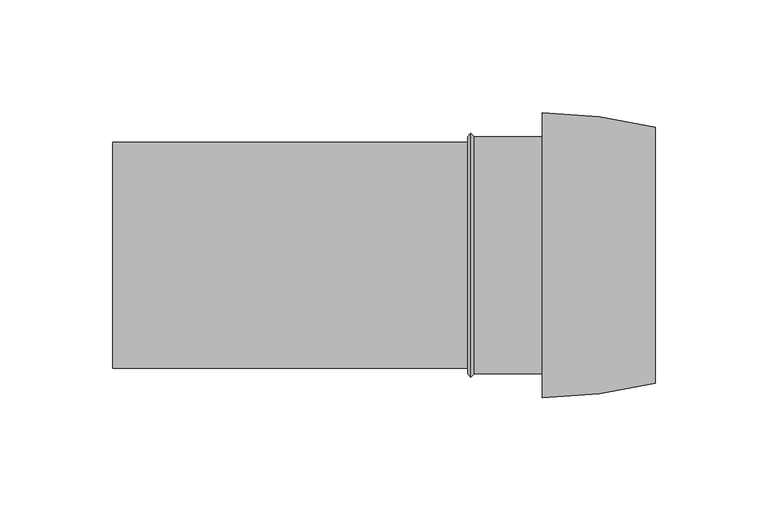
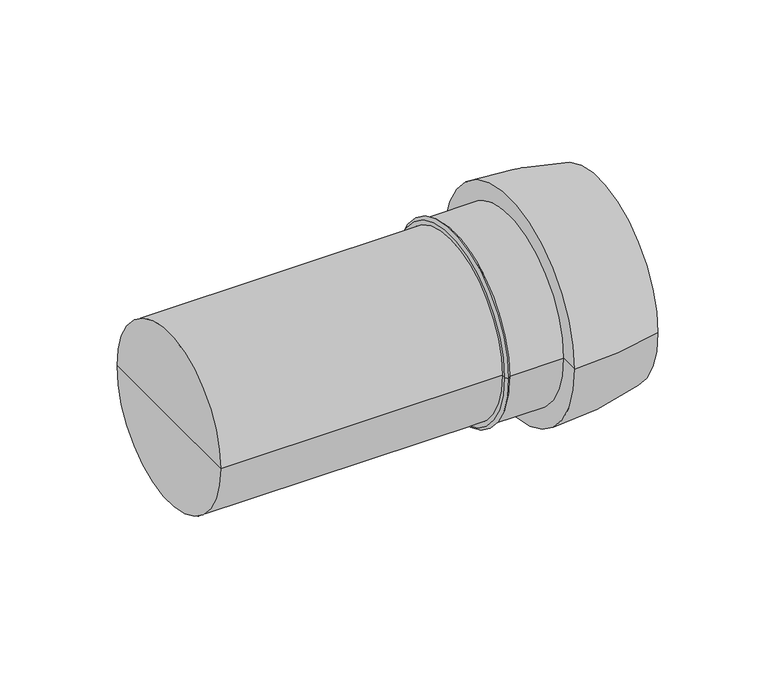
"""IFC4 building model written with IfcOpenShell, lengths in millimetres: duct segment geometry, NLRS_57_AIR_DUF_Easysafe verl pijp PP_M&G : Easysafe verlengpijp."""

from ifc_helpers import new_model, si_unit, point, frame, origin, place, context, project, spatial, polyline, circle_curve, ellipse_curve, trimmed, source, transform, mapped, element, save
from ifc_brep_helpers import plane_surface, cylinder_surface, revolved_surface, advanced_brep


def duct_segment_923477a0(model_context):
    return source(origin(), model_context, "Body", "AdvancedBrep", [
        advanced_brep(
        [(0.0, 0.0, 0.0), (0.0, 50.0, 0.0), (0.0, -50.0, 0.0), (190.0, -63.0, 0.0), (190.0, 63.0, 0.0), (240.0, 56.6491673, 0.0), (240.0, -56.6491673, 0.0), (190.0, -52.5, 0.0), (190.0, 52.5, 0.0), (160.0, -52.5, 0.0), (160.0, 52.5, 0.0), (157.0, 50.0, 0.0), (157.0, -50.0, 0.0), (240.0, 50.0, 0.0), (240.0, -50.0, 0.0), (158.5, -54.0, 0.0), (158.5, 54.0, 0.0), (157.0, -52.5, 0.0), (157.0, 52.5, 0.0), (190.0, -50.0, 0.0), (190.0, 50.0, 0.0), (190.0, 0.0, 0.0)],
        [
            (0, 1),
            (1, 2, circle_curve(frame((0.0, 0.0, 0.0), z_axis=(-1.0, 0.0, 0.0), x_axis=(0.0, 1.0, 0.0)), 50.0)),
            (2, 0),
            (2, 1, circle_curve(frame((0.0, 0.0, 0.0), z_axis=(-1.0, 0.0, 0.0), x_axis=(0.0, 1.0, 0.0)), 50.0)),
            (3, 4, circle_curve(frame((190.0, 0.0, 0.0), z_axis=(1.0, 0.0, 0.0), x_axis=(0.0, 1.0, 0.0)), 63.0)),
            (4, 5, circle_curve(frame((190.0, -137.0, 0.0), z_axis=(0.0, 0.0, -1.0), x_axis=(1.0, 0.0, 0.0)), 200.0)),
            (5, 6, circle_curve(frame((240.0, 0.0, 0.0), z_axis=(-1.0, 0.0, 0.0), x_axis=(0.0, 1.0, 0.0)), 56.6491673)),
            (6, 3, circle_curve(frame((190.0, 137.0, 0.0), z_axis=(0.0, 0.0, -1.0), x_axis=(1.0, 0.0, 0.0)), 200.0)),
            (4, 3, circle_curve(frame((190.0, 0.0, 0.0), z_axis=(1.0, 0.0, 0.0), x_axis=(0.0, 1.0, 0.0)), 63.0)),
            (6, 5, circle_curve(frame((240.0, 0.0, 0.0), z_axis=(-1.0, 0.0, 0.0), x_axis=(0.0, 1.0, 0.0)), 56.6491673)),
            (7, 8, circle_curve(frame((190.0, 0.0, 0.0), z_axis=(1.0, 0.0, 0.0), x_axis=(0.0, 1.0, 0.0)), 52.5)),
            (8, 4),
            (3, 7),
            (8, 7, circle_curve(frame((190.0, 0.0, 0.0), z_axis=(1.0, 0.0, 0.0), x_axis=(0.0, 1.0, 0.0)), 52.5)),
            (9, 10, circle_curve(frame((160.0, 0.0, 0.0), z_axis=(1.0, 0.0, 0.0), x_axis=(0.0, 1.0, 0.0)), 52.5)),
            (10, 8),
            (7, 9),
            (10, 9, circle_curve(frame((160.0, 0.0, 0.0), z_axis=(1.0, 0.0, 0.0), x_axis=(0.0, 1.0, 0.0)), 52.5)),
            (1, 11),
            (11, 12, circle_curve(frame((157.0, 0.0, 0.0), z_axis=(-1.0, 0.0, 0.0), x_axis=(0.0, 1.0, 0.0)), 50.0)),
            (12, 2),
            (12, 11, circle_curve(frame((157.0, 0.0, 0.0), z_axis=(-1.0, 0.0, 0.0), x_axis=(0.0, 1.0, 0.0)), 50.0)),
            (5, 13),
            (13, 14, circle_curve(frame((240.0, 0.0, 0.0), z_axis=(-1.0, 0.0, 0.0), x_axis=(0.0, 1.0, 0.0)), 50.0)),
            (14, 6),
            (14, 13, circle_curve(frame((240.0, 0.0, 0.0), z_axis=(-1.0, 0.0, 0.0), x_axis=(0.0, 1.0, 0.0)), 50.0)),
            (15, 16, circle_curve(frame((158.5, 0.0, 0.0), z_axis=(1.0, 0.0, 0.0), x_axis=(0.0, 1.0, 0.0)), 54.0)),
            (16, 10),
            (9, 15),
            (16, 15, circle_curve(frame((158.5, 0.0, 0.0), z_axis=(1.0, 0.0, 0.0), x_axis=(0.0, 1.0, 0.0)), 54.0)),
            (17, 18, circle_curve(frame((157.0, 0.0, 0.0), z_axis=(1.0, 0.0, 0.0), x_axis=(0.0, 1.0, 0.0)), 52.5)),
            (18, 16),
            (15, 17),
            (18, 17, circle_curve(frame((157.0, 0.0, 0.0), z_axis=(1.0, 0.0, 0.0), x_axis=(0.0, 1.0, 0.0)), 52.5)),
            (11, 18),
            (17, 12),
            (19, 20, circle_curve(frame((190.0, 0.0, 0.0), z_axis=(1.0, 0.0, 0.0), x_axis=(0.0, 1.0, 0.0)), 50.0)),
            (20, 21),
            (21, 19),
            (20, 19, circle_curve(frame((190.0, 0.0, 0.0), z_axis=(1.0, 0.0, 0.0), x_axis=(0.0, 1.0, 0.0)), 50.0)),
            (13, 20),
            (19, 14),
        ],
        [
            plane_surface(frame((0.0, 0.0, 0.0), z_axis=(-1.0, 0.0, 0.0), x_axis=(0.0, 1.0, 0.0))),
            revolved_surface(trimmed(ellipse_curve(frame((190.0, -137.0, 0.0), z_axis=(0.0, 0.0, 1.0), x_axis=(1.0, 0.0, 0.0)), 200.0, 200.0), [point((240.0, 56.6491673, 0.0))], [point((190.0, 63.0, 0.0))], True, "CARTESIAN"), (-500.0, 0.0, 0.0), (-1.0, 0.0, 0.0)),
            plane_surface(frame((190.0, 0.0, 0.0), z_axis=(-1.0, 0.0, 0.0), x_axis=(0.0, 1.0, 0.0))),
            cylinder_surface(frame((-500.0, 0.0, 0.0), z_axis=(-1.0, 0.0, 0.0), x_axis=(0.0, 1.0, 0.0)), 52.5),
            cylinder_surface(frame((-500.0, 0.0, 0.0), z_axis=(-1.0, 0.0, 0.0), x_axis=(0.0, 1.0, 0.0)), 50.0),
            plane_surface(frame((240.0, 0.0, 0.0), z_axis=(1.0, 0.0, 0.0), x_axis=(0.0, 1.0, 0.0))),
            revolved_surface(polyline([(160.0, 52.5, 0.0), (158.5, 54.0, 0.0)]), (-500.0, 0.0, 0.0), (-1.0, 0.0, 0.0)),
            revolved_surface(polyline([(158.5, 54.0, 0.0), (157.0, 52.5, 0.0)]), (-500.0, 0.0, 0.0), (-1.0, 0.0, 0.0)),
            plane_surface(frame((157.0, 0.0, 0.0), z_axis=(-1.0, 0.0, 0.0), x_axis=(0.0, 1.0, 0.0))),
            plane_surface(frame((190.0, 0.0, 0.0), z_axis=(1.0, 0.0, 0.0), x_axis=(0.0, 1.0, 0.0))),
            revolved_surface(polyline([(190.0, 50.0, 0.0), (240.0, 50.0, 0.0)]), (-500.0, 0.0, 0.0), (-1.0, 0.0, 0.0)),
        ],
        [
            (0, [[1, 2, 3]]),
            (0, [[-3, 4, -1]]),
            (1, [[5, 6, 7, 8]]),
            (1, [[9, -8, 10, -6]]),
            (2, [[11, 12, -5, 13]]),
            (2, [[14, -13, -9, -12]]),
            (3, [[15, 16, -11, 17]]),
            (3, [[18, -17, -14, -16]]),
            (4, [[-2, 19, 20, 21]]),
            (4, [[-4, -21, 22, -19]]),
            (5, [[-7, 23, 24, 25]]),
            (5, [[-10, -25, 26, -23]]),
            (6, [[27, 28, -15, 29]]),
            (6, [[30, -29, -18, -28]]),
            (7, [[31, 32, -27, 33]]),
            (7, [[34, -33, -30, -32]]),
            (8, [[-20, 35, -31, 36]]),
            (8, [[-22, -36, -34, -35]]),
            (9, [[37, 38, 39]]),
            (9, [[40, -39, -38]]),
            (10, [[-24, 41, -37, 42]]),
            (10, [[-26, -42, -40, -41]]),
        ],
    ),
    ])


if __name__ == "__main__":
    model = new_model("IFC4")
    model_context = context("Model", 3, world=origin())
    ifc_project = project(units=[si_unit("LENGTHUNIT", "METRE", prefix="MILLI")], contexts=[model_context])
    site = spatial("IfcSite", under=ifc_project)
    building = spatial("IfcBuilding", under=site)
    placement = place(None, origin())
    duct_segment_shape = duct_segment_923477a0(model_context)
    element("IfcDuctSegment", 1, ObjectType="NLRS_57_AIR_DUF_Easysafe verl pijp PP_M&G : Easysafe verlengpijp", at=placement, inside=building, context=model_context, shape_type="MappedRepresentation", body=[
        mapped(duct_segment_shape, transform((0.0, 0.0, 0.0), x_axis=(1.0, 0.0, 0.0), y_axis=(0.0, 1.0, 0.0), z_axis=(0.0, 0.0, 1.0))),
    ])
    save(model, "model.ifc")
